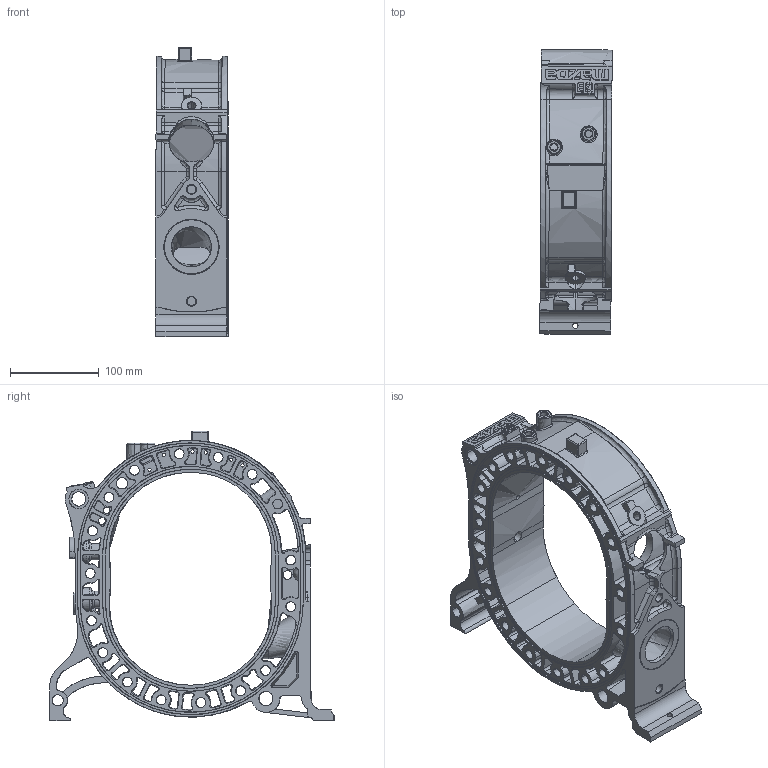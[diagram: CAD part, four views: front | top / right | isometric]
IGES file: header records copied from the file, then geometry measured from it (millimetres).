
Global section: file name: G:\Larry-Childs-rotor-house.jpg.igs; native system: Rhinoceros ( Mar  9 2011 ); preprocessor: Trout Lake IGES 012 Mar  9 2011; date: 150828.173056; units: inch
Bounding box: 81.45 x 320.65 x 326.16 mm (x, y, z)
Surface area: 454459.3 mm2 (no closed solid volume)
Topology: 0 solids, 0 shells, 1393 faces, 7971 edges, 7957 vertices
Faces by surface type: bspline 1393
